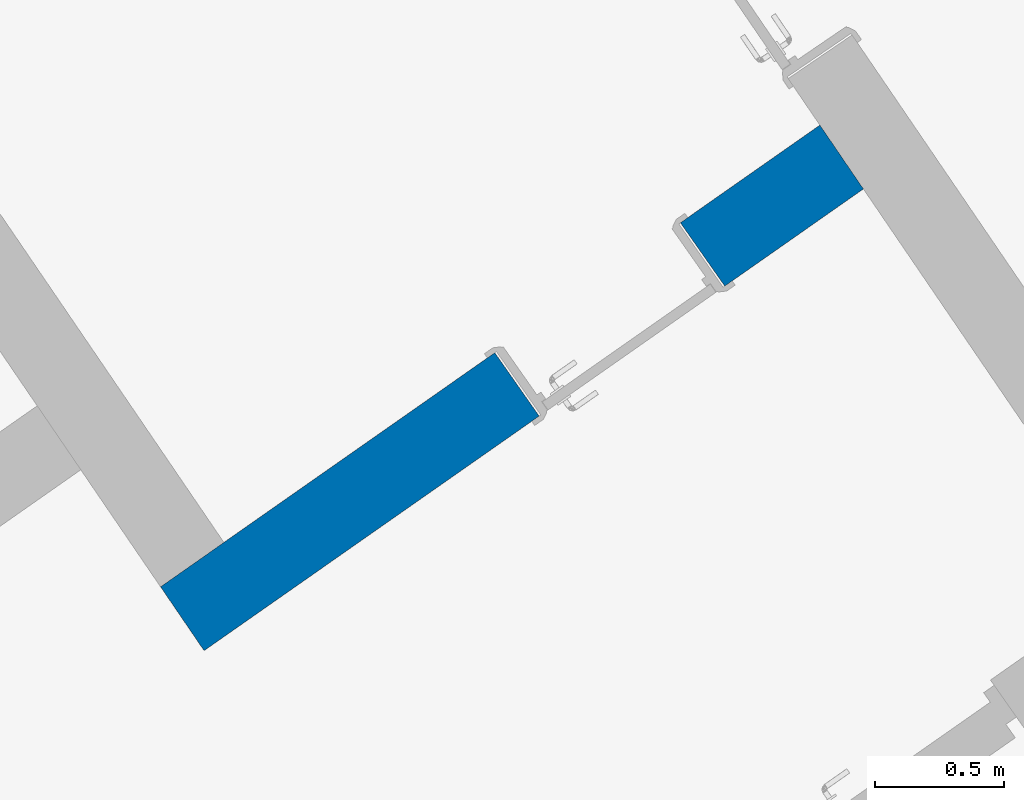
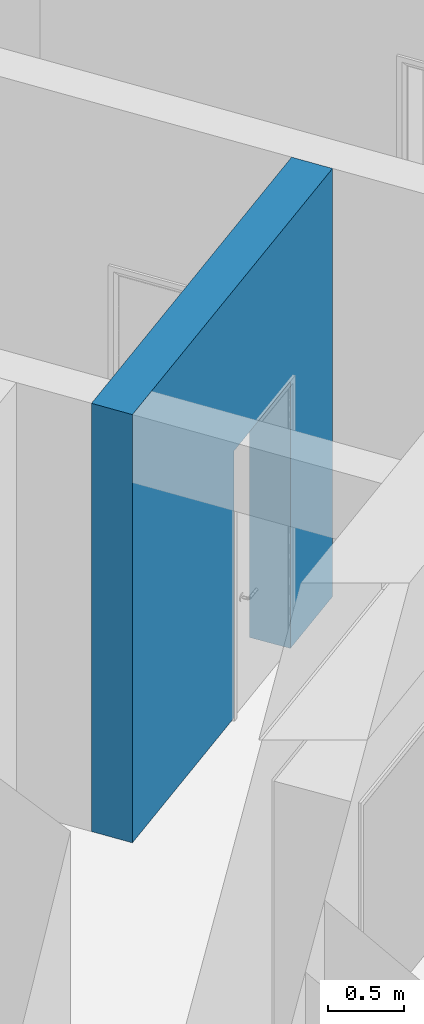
# One storey, part 33 of 112: 1 wall, 1 opening.
"""IFC2X3 building model written with IfcOpenShell, lengths in millimetres."""

from ifc_helpers import new_model, entity, si_unit, converted_unit, derived_unit, direction, frame, frame_2d, origin, place, context, subcontext, project, spatial, polyline, rectangle, outline, extrude, material, layer, layer_set, layer_usage, type_object, element, save


model = new_model("IFC2X3")

# Units and contexts
model_context = context("Model", 3, precision=0.01, world=origin(), true_north=direction((6.123031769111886e-17, 1.0)))
body_context = subcontext(model_context, "Body", "Model", "MODEL_VIEW")
ifc_project = project(units=[si_unit("LENGTHUNIT", "METRE", prefix="MILLI"), si_unit("AREAUNIT", "SQUARE_METRE"), si_unit("VOLUMEUNIT", "CUBIC_METRE"), converted_unit("PLANEANGLEUNIT", "DEGREE", entity("IfcRatioMeasure", 0.017453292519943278), si_unit("PLANEANGLEUNIT", "RADIAN"), dimensions=[0, 0, 0, 0, 0, 0, 0]), si_unit("MASSUNIT", "GRAM", prefix="KILO"), derived_unit("MASSDENSITYUNIT", [(si_unit("MASSUNIT", "GRAM", prefix="KILO"), 1), (si_unit("LENGTHUNIT", "METRE"), -3)]), derived_unit("MOMENTOFINERTIAUNIT", [(si_unit("LENGTHUNIT", "METRE"), 4)]), si_unit("TIMEUNIT", "SECOND"), si_unit("FREQUENCYUNIT", "HERTZ"), si_unit("THERMODYNAMICTEMPERATUREUNIT", "DEGREE_CELSIUS"), derived_unit("THERMALTRANSMITTANCEUNIT", [(si_unit("MASSUNIT", "GRAM", prefix="KILO"), 1), (si_unit("THERMODYNAMICTEMPERATUREUNIT", "KELVIN"), -1), (si_unit("TIMEUNIT", "SECOND"), -3)]), derived_unit("THERMALCONDUCTANCEUNIT", [(si_unit("MASSUNIT", "GRAM", prefix="KILO"), 1), (si_unit("LENGTHUNIT", "METRE"), 1), (si_unit("THERMODYNAMICTEMPERATUREUNIT", "KELVIN"), -1), (si_unit("TIMEUNIT", "SECOND"), -3)]), derived_unit("VOLUMETRICFLOWRATEUNIT", [(si_unit("LENGTHUNIT", "METRE"), 3), (si_unit("TIMEUNIT", "SECOND"), -1)]), derived_unit("MASSFLOWRATEUNIT", [(si_unit("MASSUNIT", "GRAM", prefix="KILO"), 1), (si_unit("TIMEUNIT", "SECOND"), -1)]), derived_unit("ROTATIONALFREQUENCYUNIT", [(si_unit("TIMEUNIT", "SECOND"), -1)]), si_unit("ELECTRICCURRENTUNIT", "AMPERE"), si_unit("ELECTRICVOLTAGEUNIT", "VOLT"), si_unit("POWERUNIT", "WATT"), converted_unit("FORCEUNIT", "KIP", entity("IfcRatioMeasure", 2.088543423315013e-05), si_unit("FORCEUNIT", "NEWTON"), dimensions=[1, 1, -2, 0, 0, 0, 0]), si_unit("ILLUMINANCEUNIT", "LUX"), si_unit("LUMINOUSFLUXUNIT", "LUMEN"), si_unit("LUMINOUSINTENSITYUNIT", "CANDELA"), derived_unit("USERDEFINED", [(si_unit("MASSUNIT", "GRAM", prefix="KILO"), -1), (si_unit("LENGTHUNIT", "METRE"), -2), (si_unit("TIMEUNIT", "SECOND"), 3), (si_unit("LUMINOUSFLUXUNIT", "LUMEN"), 1)]), derived_unit("USERDEFINED", [(si_unit("MASSUNIT", "GRAM", prefix="KILO"), 1), (si_unit("LENGTHUNIT", "METRE"), 3), (si_unit("TIMEUNIT", "SECOND"), -3), (si_unit("ELECTRICCURRENTUNIT", "AMPERE"), -2)]), derived_unit("USERDEFINED", [(si_unit("LENGTHUNIT", "METRE"), 2), (si_unit("TIMEUNIT", "SECOND"), -2)]), derived_unit("SOUNDPOWERUNIT", [(si_unit("MASSUNIT", "GRAM", prefix="KILO"), 1), (si_unit("LENGTHUNIT", "METRE"), 2), (si_unit("TIMEUNIT", "SECOND"), -3)]), derived_unit("SOUNDPRESSUREUNIT", [(si_unit("MASSUNIT", "GRAM", prefix="KILO"), 1), (si_unit("LENGTHUNIT", "METRE"), -1), (si_unit("TIMEUNIT", "SECOND"), -2)]), derived_unit("LINEARVELOCITYUNIT", [(si_unit("LENGTHUNIT", "METRE"), 1), (si_unit("TIMEUNIT", "SECOND"), -1)]), si_unit("PRESSUREUNIT", "PASCAL"), derived_unit("USERDEFINED", [(si_unit("LENGTHUNIT", "METRE"), -2), (si_unit("MASSUNIT", "GRAM", prefix="KILO"), 1), (si_unit("TIMEUNIT", "SECOND"), -2)]), derived_unit("LINEARFORCEUNIT", [(si_unit("MASSUNIT", "GRAM", prefix="KILO"), 1), (si_unit("LENGTHUNIT", "METRE"), 1), (si_unit("TIMEUNIT", "SECOND"), -2), (si_unit("LENGTHUNIT", "METRE"), -1)]), derived_unit("PLANARFORCEUNIT", [(si_unit("MASSUNIT", "GRAM", prefix="KILO"), 1), (si_unit("LENGTHUNIT", "METRE"), 1), (si_unit("TIMEUNIT", "SECOND"), -2), (si_unit("LENGTHUNIT", "METRE"), -2)]), derived_unit("SPECIFICHEATCAPACITYUNIT", [(si_unit("LENGTHUNIT", "METRE"), 2), (si_unit("TIMEUNIT", "SECOND"), -2), (si_unit("THERMODYNAMICTEMPERATUREUNIT", "KELVIN"), -1)]), derived_unit("VAPORPERMEABILITYUNIT", [(si_unit("TIMEUNIT", "SECOND"), 1), (si_unit("LENGTHUNIT", "METRE"), -1)]), derived_unit("DYNAMICVISCOSITYUNIT", [(si_unit("MASSUNIT", "GRAM", prefix="KILO"), 1), (si_unit("LENGTHUNIT", "METRE"), -1), (si_unit("TIMEUNIT", "SECOND"), -1)]), derived_unit("THERMALEXPANSIONCOEFFICIENTUNIT", [(si_unit("THERMODYNAMICTEMPERATUREUNIT", "KELVIN"), -1)])], contexts=[model_context])

# Site, building, storey
site_placement = place(None, frame((0.0, 0.0, 0.0), z_axis=(0.0, 0.0, 1.0), x_axis=(0.8191520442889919, 0.5735764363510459, 0.0)))
site = spatial("IfcSite", under=ifc_project, at=site_placement, Name="Default", CompositionType="ELEMENT")
building_placement = place(site_placement, origin())
building = spatial("IfcBuilding", under=site, at=building_placement, CompositionType="ELEMENT")
storey_placement = place(building_placement, frame((0.0, 0.0, -3600.0)))
storey = spatial("IfcBuildingStorey", under=building, at=storey_placement, Name="0.UG -3.60", CompositionType="ELEMENT", Elevation=-3600.0000000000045)

# Wall, opening
ifc_material = material(Name="Analytical Wall Surface_CJC")
ifc_layer = layer(ifc_material, 300.0)
ifc_layer_set = layer_set([ifc_layer], Name="Basic Wall:Wand_Innen_30")
ifc_layer_usage = layer_usage(ifc_layer_set, "AXIS2", "NEGATIVE", 150.0)
wall_type = type_object("IfcWallType", Name="Basic Wall:Wand_Innen_30", PredefinedType="STANDARD", material=ifc_layer_set)
wall_placement = place(storey_placement, frame((-214221.03360931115, 105846.3589143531, 0.0), z_axis=(0.0, 0.0, 1.0), x_axis=(-1.0, 0.0, 0.0)))
wall = element("IfcWallStandardCase", 1, at=wall_placement, inside=storey, type_object=wall_type, material=ifc_layer_usage, Name="Basic Wall:Wand_Innen_30", ObjectType="Basic Wall:Wand_Innen_30", context=body_context, shape_type="SweptSolid", body=[
    extrude(outline(polyline([(0.0, -150.0), (2825.229047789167, -150.0), (3125.2533571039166, -150.0), (3129.0725428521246, 150.0), (2829.048233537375, 150.0), (3.8191857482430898, 150.0), (0.0, -150.0)])), origin(), (0.0, 0.0, 1.0), 3450.0),
])
opening_placement = place(wall_placement, frame((661.1179951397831, -150.0, 0.0)))
element("IfcOpeningElement", 2, at=opening_placement, cuts=wall, Name="Doors_IntSgl:80x210:1", ObjectType="Opening", context=body_context, shape_type="SweptSolid", body=[
    extrude(rectangle(XDim=2150.000000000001, YDim=879.9999999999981, at=frame_2d((1075.0000000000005, 440.0000000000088), x_axis=(1.0, 0.0))), frame((0.0, 0.0, 0.0), z_axis=(0.0, 1.0, 0.0), x_axis=(0.0, 0.0, 1.0)), (0.0, 0.0, 1.0), 300.0),
])

save(model, "model.ifc")
